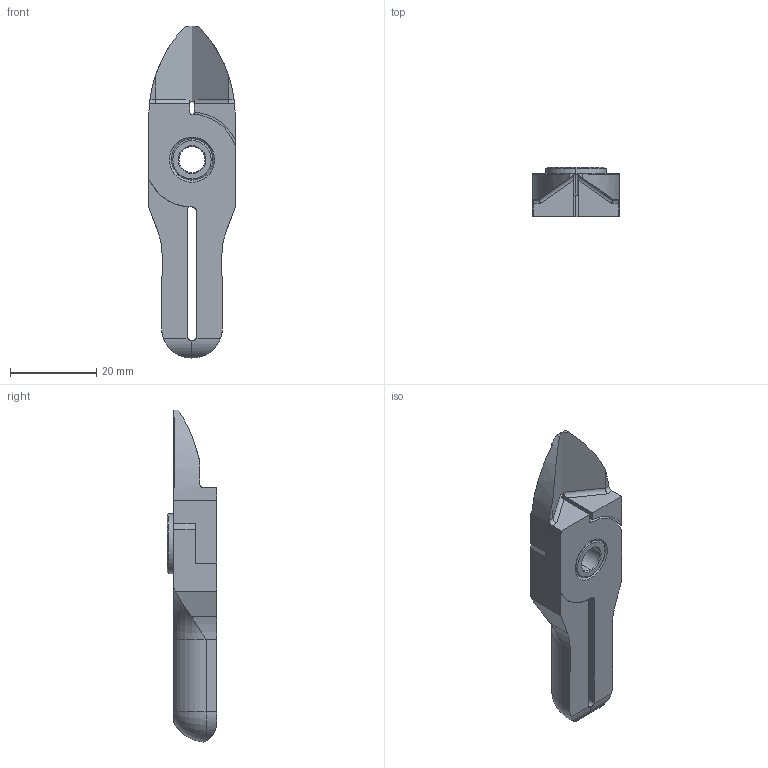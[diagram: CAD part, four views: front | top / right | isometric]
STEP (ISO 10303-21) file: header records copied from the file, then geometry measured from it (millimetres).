
FILE_DESCRIPTION (( 'STEP AP214' ), '1' );
FILE_NAME ('NY25AJ.STEP', '2019-11-28T03:28:11', ( '微软用户' ), ( '微软中国' ), 'SwSTEP 2.0', 'SolidWorks 2016', '' );
FILE_SCHEMA (( 'AUTOMOTIVE_DESIGN' ));
Length unit declared in the file: millimetre
Products named in the file (1): NY25AJ
Bounding box: 20 x 11.5 x 76.98 mm (x, y, z)
Surface area: 6538.7 mm2 (no closed solid volume)
Topology: 0 solids, 4 shells, 125 faces, 329 edges, 208 vertices
Faces by surface type: cylinder 52, plane 41, cone 22, torus 8, bspline 2
Entity records: 4470 total; most frequent: CARTESIAN_POINT 1357, DIRECTION 667, ORIENTED_EDGE 626, EDGE_CURVE 325, AXIS2_PLACEMENT_3D 256, VERTEX_POINT 208, VECTOR 155, LINE 155
